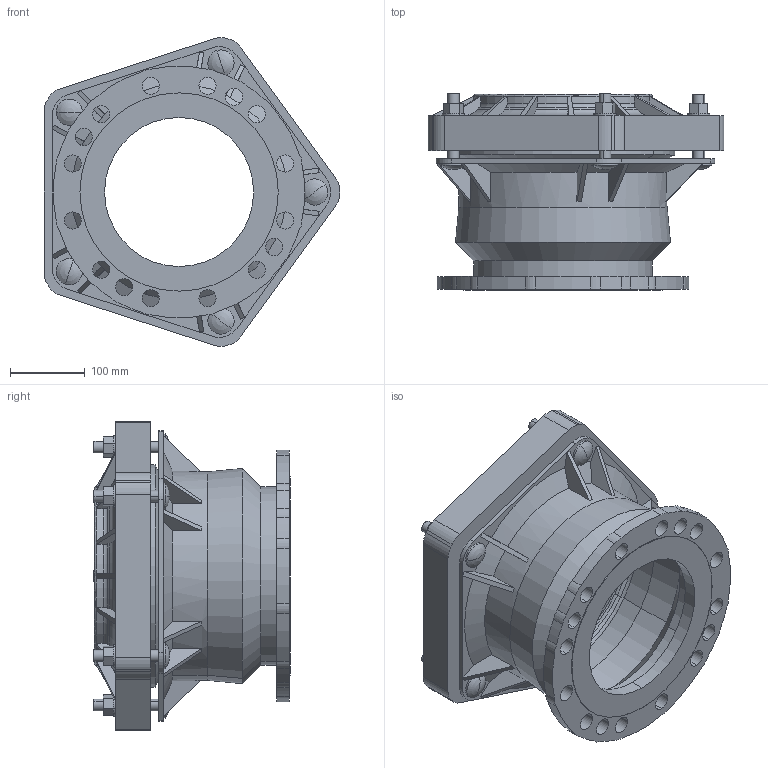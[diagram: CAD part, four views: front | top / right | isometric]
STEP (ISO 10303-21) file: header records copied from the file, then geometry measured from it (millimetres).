
FILE_DESCRIPTION((''),'2;1');
FILE_NAME('BIM_13199_10_ASM','2020-04-01T',('MReader'),(''),'CREO PARAMETRIC BY PTC INC, 2016130','CREO PARAMETRIC BY PTC INC, 2016130','');
FILE_SCHEMA(('CONFIG_CONTROL_DESIGN'));
Length unit declared in the file: millimetre
Products named in the file (4): NEW_BIM_13144; BIM_13142; BIM_CDX_BOLT_93; BIM_13199_10_ASM
Assembly tree (7 placements, depth 2):
  BIM_13199_10_ASM
    NEW_BIM_13144
    BIM_13142
    BIM_CDX_BOLT_93  x5
Bounding box: 396.98 x 263 x 414.53 mm (x, y, z)
Volume: 5955707.5 mm3; surface area: 920104.5 mm2
Topology: 7 solids, 7 shells, 421 faces, 1105 edges, 709 vertices
Faces by surface type: plane 155, cylinder 140, cone 80, torus 36, sphere 10
Entity records: 12538 total; most frequent: DIRECTION 2284, CARTESIAN_POINT 2222, ORIENTED_EDGE 2078, EDGE_CURVE 1039, AXIS2_PLACEMENT_3D 875, VERTEX_POINT 673, VECTOR 534, LINE 534
